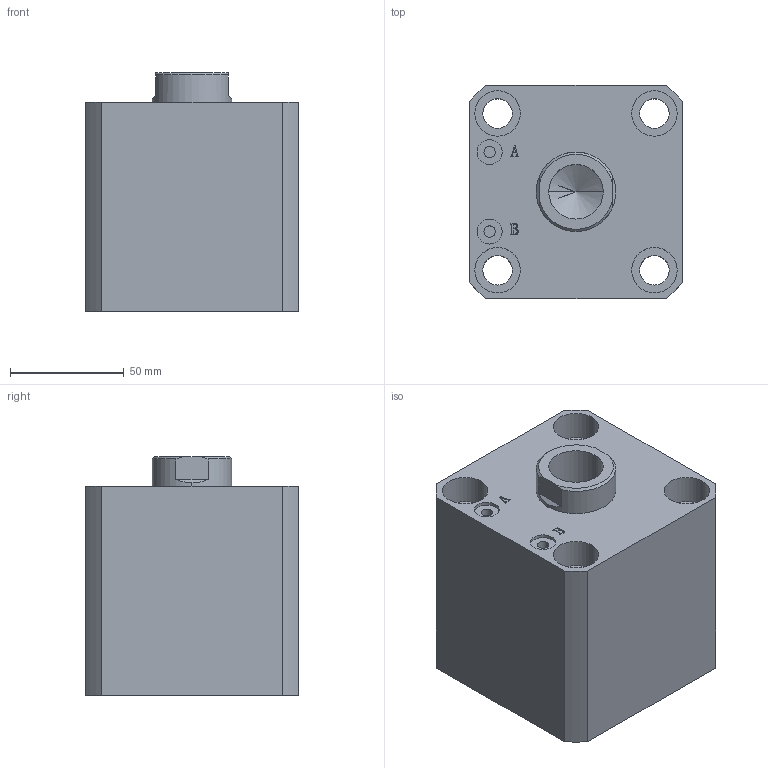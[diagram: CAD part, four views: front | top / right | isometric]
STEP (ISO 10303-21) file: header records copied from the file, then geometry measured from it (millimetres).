
FILE_DESCRIPTION (( 'STEP AP203' ), '1' );
FILE_NAME ('HTB-SDMA63-25N.STEP', '2019-10-08T01:02:35', ( '微软用户' ), ( '微软中国' ), 'SwSTEP 2.0', 'SolidWorks 2012', '' );
FILE_SCHEMA (( 'CONFIG_CONTROL_DESIGN' ));
Length unit declared in the file: millimetre
Products named in the file (3): HTB-SDMA63-25掛极; HTB-SDMA63-25N; HTB-SDMA63-25N活塞杆
Assembly tree (2 placements, depth 2):
  HTB-SDMA63-25N
    HTB-SDMA63-25掛极
    HTB-SDMA63-25N活塞杆
Bounding box: 94 x 94 x 105 mm (x, y, z)
Volume: 674805 mm3; surface area: 104179.8 mm2
Topology: 2 solids, 2 shells, 137 faces, 331 edges, 217 vertices
Faces by surface type: plane 65, cylinder 46, bspline 16, torus 6, cone 4
Entity records: 5070 total; most frequent: CARTESIAN_POINT 1576, ORIENTED_EDGE 658, DIRECTION 647, EDGE_CURVE 329, AXIS2_PLACEMENT_3D 232, VERTEX_POINT 217, VECTOR 183, LINE 183
